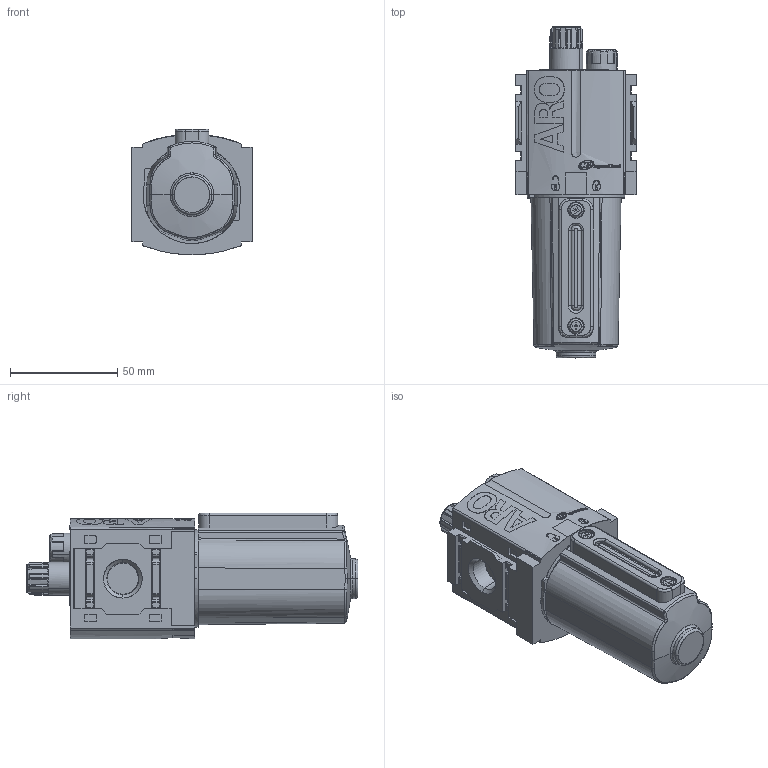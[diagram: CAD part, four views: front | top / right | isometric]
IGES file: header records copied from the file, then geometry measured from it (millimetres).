
Global section: file name: C:\Documents and Settings\szeedyk\Desktop\L362X1-X1X_01.igs; native system: NX V4.0; preprocessor: UGS NX IGES V4.0; date: 20090204.074124; units: inch
Bounding box: 56 x 154.6 x 58.5 mm (x, y, z)
Surface area: 33116.8 mm2 (no closed solid volume)
Topology: 0 solids, 0 shells, 1565 faces, 8800 edges, 8796 vertices
Faces by surface type: bspline 1565
